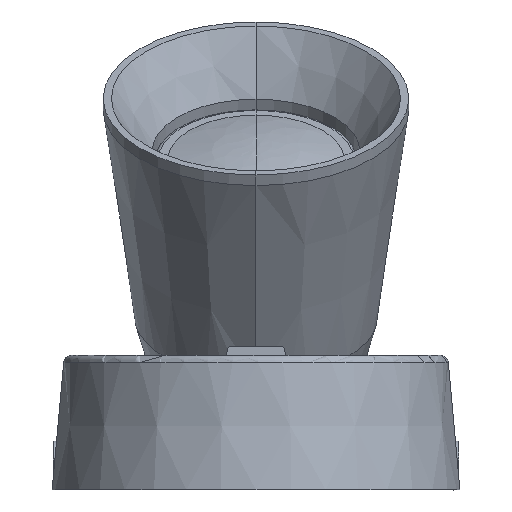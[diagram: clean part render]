
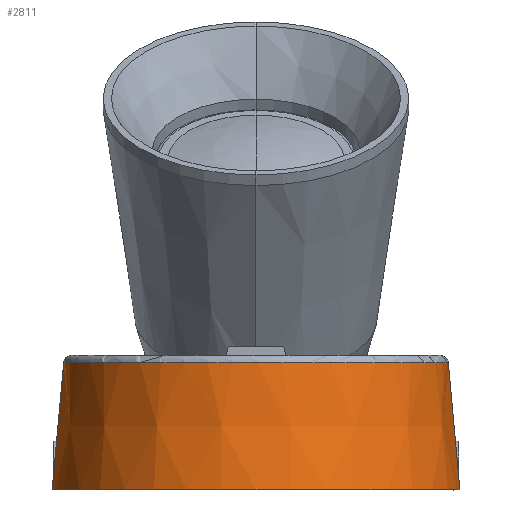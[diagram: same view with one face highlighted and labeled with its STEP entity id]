
A CAD part, front view. The second image highlights one B-rep face of the part: STEP entity #2811.
In plain terms, the highlighted conical face has half-angle 5.194 degrees and reference radius 49.717 mm.
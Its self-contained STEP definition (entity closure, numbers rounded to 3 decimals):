
#84=B_SPLINE_CURVE_WITH_KNOTS('',3,(#5062,#5063,#5064,#5065,#5066,#5067,
#5068,#5069,#5070,#5071),.UNSPECIFIED.,.F.,.F.,(4,1,1,1,1,1,1,4),(0.,0.143,
0.286,0.429,0.571,0.714,
0.857,1.),.UNSPECIFIED.);
#164=CONICAL_SURFACE('',#3089,49.717,0.091);
#364=FACE_OUTER_BOUND('',#552,.T.);
#552=EDGE_LOOP('',(#2494,#2495,#2496,#2497));
#650=CIRCLE('',#3071,50.);
#869=LINE('',#4858,#1096);
#884=LINE('',#5047,#1111);
#1096=VECTOR('',#3784,304.8);
#1111=VECTOR('',#3833,304.8);
#1317=VERTEX_POINT('',#4856);
#1318=VERTEX_POINT('',#4857);
#1321=VERTEX_POINT('',#4865);
#1356=VERTEX_POINT('',#5046);
#1694=EDGE_CURVE('',#1317,#1318,#869,.T.);
#1698=EDGE_CURVE('',#1318,#1321,#650,.T.);
#1741=EDGE_CURVE('',#1321,#1356,#884,.T.);
#1745=EDGE_CURVE('',#1317,#1356,#84,.T.);
#2494=ORIENTED_EDGE('',*,*,#1745,.F.);
#2495=ORIENTED_EDGE('',*,*,#1694,.T.);
#2496=ORIENTED_EDGE('',*,*,#1698,.T.);
#2497=ORIENTED_EDGE('',*,*,#1741,.T.);
#2811=ADVANCED_FACE('',(#364),#164,.T.);
#3071=AXIS2_PLACEMENT_3D('',#4866,#3790,#3791);
#3089=AXIS2_PLACEMENT_3D('',#5061,#3840,#3841);
#3784=DIRECTION('',(-0.091,0.,-0.996));
#3790=DIRECTION('center_axis',(0.,0.,
1.));
#3791=DIRECTION('ref_axis',(-0.809,-0.588,0.));
#3833=DIRECTION('',(-0.091,0.,0.996));
#3840=DIRECTION('center_axis',(0.,0.,
-1.));
#3841=DIRECTION('ref_axis',(-0.809,-0.588,0.));
#4856=CARTESIAN_POINT('',(-47.166,-35.003,31.176));
#4857=CARTESIAN_POINT('',(-50.,-35.003,0.));
#4858=CARTESIAN_POINT('',(-47.166,-35.003,31.176));
#4865=CARTESIAN_POINT('',(50.,-35.003,0.));
#4866=CARTESIAN_POINT('Origin',(0.,-35.003,
0.));
#5046=CARTESIAN_POINT('',(47.166,-35.003,31.176));
#5047=CARTESIAN_POINT('',(50.,-35.003,0.));
#5061=CARTESIAN_POINT('Origin',(0.,-35.003,
3.118));
#5062=CARTESIAN_POINT('Ctrl Pts',(-47.166,-35.003,31.176));
#5063=CARTESIAN_POINT('Ctrl Pts',(-47.269,-42.107,31.176));
#5064=CARTESIAN_POINT('Ctrl Pts',(-43.898,-56.143,31.176));
#5065=CARTESIAN_POINT('Ctrl Pts',(-30.424,-73.143,31.176));
#5066=CARTESIAN_POINT('Ctrl Pts',(-10.849,-82.554,31.176));
#5067=CARTESIAN_POINT('Ctrl Pts',(10.849,-82.554,31.176));
#5068=CARTESIAN_POINT('Ctrl Pts',(30.424,-73.143,31.176));
#5069=CARTESIAN_POINT('Ctrl Pts',(43.898,-56.143,31.176));
#5070=CARTESIAN_POINT('Ctrl Pts',(47.269,-42.107,31.176));
#5071=CARTESIAN_POINT('Ctrl Pts',(47.166,-35.003,31.176));
